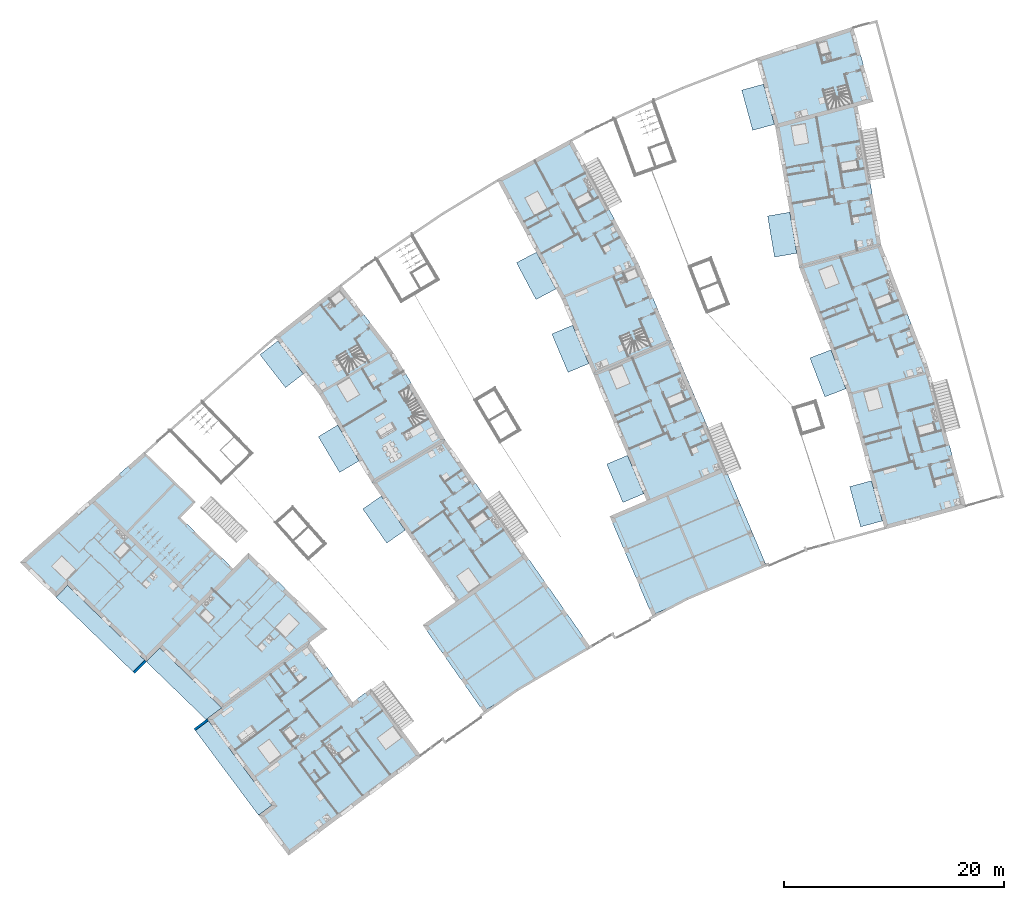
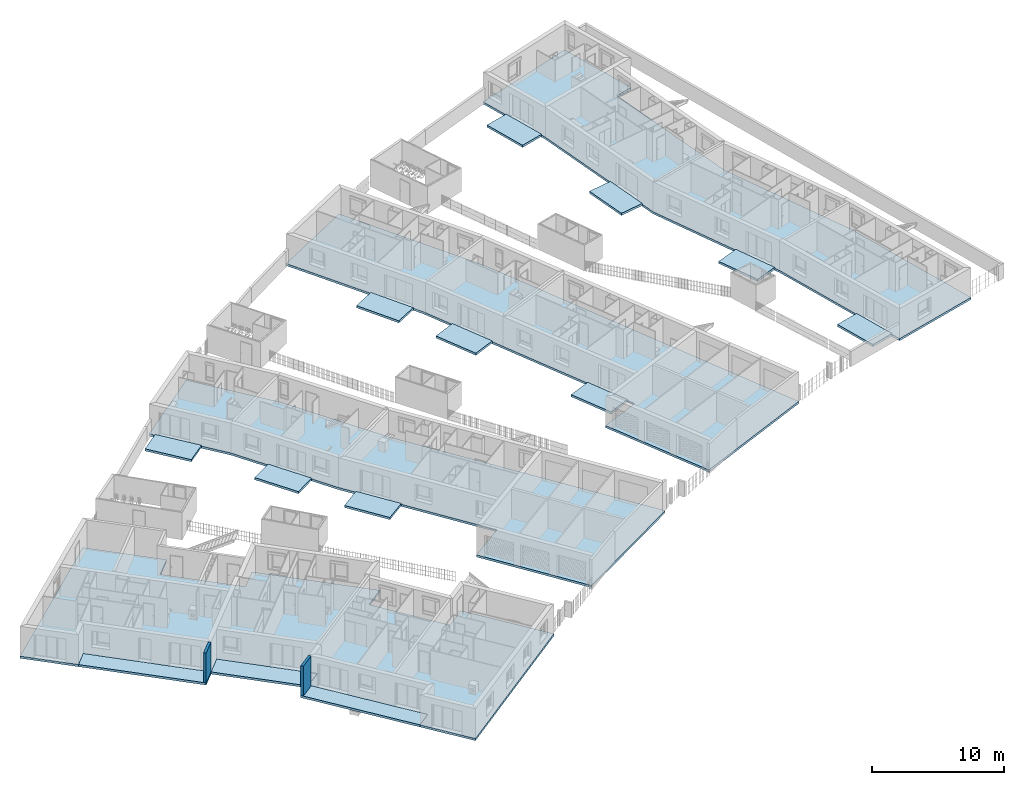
# One storey, part 1 of 195: 17 slabs, 2 walls.
"""IFC2X3 building model written with IfcOpenShell, lengths in metres."""

from ifc_helpers import new_model, entity, si_unit, converted_unit, derived_unit, money_unit, direction, frame, origin_with_axes, place, context, subcontext, project, spatial, polyline, outline, extrude, material, layer, layer_set, layer_usage, type_object, element, save


model = new_model("IFC2X3")

# Units and contexts
model_context = context("Model", 3, precision=1e-05, world=origin_with_axes(), true_north=direction((0.0, 1.0)))
body_context = subcontext(model_context, "Body", "Model", "MODEL_VIEW")
ifc_project = project(units=[si_unit("LENGTHUNIT", "METRE"), si_unit("AREAUNIT", "SQUARE_METRE"), si_unit("VOLUMEUNIT", "CUBIC_METRE"), converted_unit("PLANEANGLEUNIT", "DEGREE", entity("IfcPlaneAngleMeasure", 0.0174532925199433), si_unit("PLANEANGLEUNIT", "RADIAN"), dimensions=[0, 0, 0, 0, 0, 0, 0]), money_unit("CHF"), converted_unit("TIMEUNIT", "Year", entity("IfcTimeMeasure", 31557600.0), si_unit("TIMEUNIT", "SECOND"), dimensions=[0, 0, 1, 0, 0, 0, 0]), si_unit("MASSUNIT", "GRAM", prefix="KILO"), si_unit("THERMODYNAMICTEMPERATUREUNIT", "DEGREE_CELSIUS"), si_unit("LUMINOUSINTENSITYUNIT", "LUMEN"), si_unit("ENERGYUNIT", "JOULE", prefix="MEGA"), derived_unit("THERMALCONDUCTANCEUNIT", [(si_unit("POWERUNIT", "WATT"), 1), (si_unit("LENGTHUNIT", "METRE"), -1), (si_unit("THERMODYNAMICTEMPERATUREUNIT", "KELVIN"), -1)]), derived_unit("SPECIFICHEATCAPACITYUNIT", [(si_unit("ENERGYUNIT", "JOULE"), 1), (si_unit("MASSUNIT", "GRAM", prefix="KILO"), -1), (si_unit("THERMODYNAMICTEMPERATUREUNIT", "KELVIN"), -1)]), derived_unit("MASSDENSITYUNIT", [(si_unit("MASSUNIT", "GRAM", prefix="KILO"), 1), (si_unit("VOLUMEUNIT", "CUBIC_METRE"), -1)])], contexts=[model_context])

# Site, building, storey
site_placement = place(None, origin_with_axes())
site = spatial("IfcSite", under=ifc_project, at=site_placement, Name="Site", CompositionType="ELEMENT")
building_placement = place(site_placement, origin_with_axes())
building = spatial("IfcBuilding", under=site, at=building_placement, Name="Bâtiment", CompositionType="ELEMENT")
storey_placement = place(building_placement, origin_with_axes())
storey = spatial("IfcBuildingStorey", under=building, at=storey_placement, Name="rdc", CompositionType="ELEMENT", Elevation=0.0)

# Slabs
ifc_material_1 = material(Name="ANSI31 297159430")
ifc_layer_1 = layer(ifc_material_1, 0.2, ventilated="UNKNOWN")
ifc_layer_set_1 = layer_set([ifc_layer_1], Name="ANSI31 297159430 0.2")
ifc_layer_usage_1 = layer_usage(ifc_layer_set_1, "AXIS3", "NEGATIVE", 0.2)
slab_type_1 = type_object("IfcSlabType", Name="ANSI31 297159430 200", PredefinedType="FLOOR")
slab_1_placement = place(storey_placement, frame((9515.572352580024, -1064.510660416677, 57.7), z_axis=(0.0, 0.0, 1.0), x_axis=(1.0, 0.0, 0.0)))
element("IfcSlab", 1, at=slab_1_placement, inside=storey, type_object=slab_type_1, material=ifc_layer_usage_1, Name="Dalle-099", PredefinedType="FLOOR", context=body_context, shape_type="SweptSolid", body=[
    extrude(outline(polyline([(0.0, 0.0), (-1.040675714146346, -1.079673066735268), (6.107583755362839, -8.006431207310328), (7.151375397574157, -6.929166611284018), (0.0, 0.0)])), frame((0.0, 0.0, -0.2), z_axis=(0.0, 0.0, 1.0), x_axis=(1.0, 0.0, 0.0)), (0.0, 0.0, 1.0), 0.2),
])
ifc_layer_usage_2 = layer_usage(ifc_layer_set_1, "AXIS3", "NEGATIVE", 0.2)
slab_2_placement = place(storey_placement, frame((9578.738091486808, -1019.024687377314, 57.78), z_axis=(0.0, 0.0, 1.0), x_axis=(1.0, 0.0, 0.0)))
element("IfcSlab", 2, at=slab_2_placement, inside=storey, type_object=slab_type_1, material=ifc_layer_usage_2, Name="Dalle-099", PredefinedType="FLOOR", context=body_context, shape_type="SweptSolid", body=[
    extrude(outline(polyline([(0.0, 0.0), (-1.980780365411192, -0.5393674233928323), (-0.9865030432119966, -4.190765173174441), (0.9942773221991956, -3.651397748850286), (0.0, 0.0)])), frame((0.0, 0.0, -0.2), z_axis=(0.0, 0.0, 1.0), x_axis=(1.0, 0.0, 0.0)), (0.0, 0.0, 1.0), 0.2),
])
ifc_layer_usage_3 = layer_usage(ifc_layer_set_1, "AXIS3", "NEGATIVE", 0.2)
slab_3_placement = place(storey_placement, frame((9534.660434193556, -1042.323134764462, 57.78), z_axis=(0.0, 0.0, 1.0), x_axis=(1.0, 0.0, 0.0)))
element("IfcSlab", 3, at=slab_3_placement, inside=storey, type_object=slab_type_1, material=ifc_layer_usage_3, Name="Dalle-099", PredefinedType="FLOOR", context=body_context, shape_type="SweptSolid", body=[
    extrude(outline(polyline([(0.0, 0.0), (-1.622350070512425, -1.257930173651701), (0.6965357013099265, -4.248592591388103), (2.318885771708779, -2.990662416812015), (0.0, 0.0)])), frame((0.0, 0.0, -0.2), z_axis=(0.0, 0.0, 1.0), x_axis=(1.0, 0.0, 0.0)), (0.0, 0.0, 1.0), 0.2),
])
ifc_layer_usage_4 = layer_usage(ifc_layer_set_1, "AXIS3", "NEGATIVE", 0.2)
slab_4_placement = place(storey_placement, frame((9561.416105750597, -1040.898649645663, 57.78), z_axis=(0.0, 0.0, 1.0), x_axis=(1.0, 0.0, 0.0)))
element("IfcSlab", 4, at=slab_4_placement, inside=storey, type_object=slab_type_1, material=ifc_layer_usage_4, Name="Dalle-099", PredefinedType="FLOOR", context=body_context, shape_type="SweptSolid", body=[
    extrude(outline(polyline([(0.0, 0.0), (-1.891586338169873, -0.7976899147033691), (-0.421113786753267, -4.284666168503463), (1.470472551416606, -3.486976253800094), (0.0, 0.0)])), frame((0.0, 0.0, -0.2), z_axis=(0.0, 0.0, 1.0), x_axis=(1.0, 0.0, 0.0)), (0.0, 0.0, 1.0), 0.2),
])
ifc_layer_usage_5 = layer_usage(ifc_layer_set_1, "AXIS3", "NEGATIVE", 0.2)
slab_5_placement = place(storey_placement, frame((9558.131144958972, -1034.268580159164, 57.78), z_axis=(0.0, 0.0, 1.0), x_axis=(1.0, 0.0, 0.0)))
element("IfcSlab", 5, at=slab_5_placement, inside=storey, type_object=slab_type_1, material=ifc_layer_usage_5, Name="Dalle-099", PredefinedType="FLOOR", context=body_context, shape_type="SweptSolid", body=[
    extrude(outline(polyline([(0.0, 0.0), (-1.813944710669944, -0.9612557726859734), (-0.04195260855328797, -4.305106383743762), (1.771992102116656, -3.343850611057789), (0.0, 0.0)])), frame((0.0, 0.0, -0.2), z_axis=(0.0, 0.0, 1.0), x_axis=(1.0, 0.0, 0.0)), (0.0, 0.0, 1.0), 0.2),
])
ifc_layer_usage_6 = layer_usage(ifc_layer_set_1, "AXIS3", "NEGATIVE", 0.2)
slab_6_placement = place(storey_placement, frame((9523.941571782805, -1070.182928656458, 57.7), z_axis=(0.0, 0.0, 1.0), x_axis=(1.0, 0.0, 0.0)))
element("IfcSlab", 6, at=slab_6_placement, inside=storey, type_object=slab_type_1, material=ifc_layer_usage_6, Name="Dalle-099", PredefinedType="FLOOR", context=body_context, shape_type="SweptSolid", body=[
    extrude(outline(polyline([(0.0, 0.0), (-1.21784380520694, -1.256898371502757), (4.204445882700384, -6.510705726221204), (5.582322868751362, -5.481469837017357), (5.639182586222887, -5.4639609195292), (0.0, 0.0)])), frame((0.0, 0.0, -0.2), z_axis=(0.0, 0.0, 1.0), x_axis=(1.0, 0.0, 0.0)), (0.0, 0.0, 1.0), 0.2),
])
ifc_layer_usage_7 = layer_usage(ifc_layer_set_1, "AXIS3", "NEGATIVE", 0.2)
slab_7_placement = place(storey_placement, frame((9581.125737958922, -1030.644395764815, 57.78), z_axis=(0.0, 0.0, 1.0), x_axis=(1.0, 0.0, 0.0)))
element("IfcSlab", 7, at=slab_7_placement, inside=storey, type_object=slab_type_1, material=ifc_layer_usage_7, Name="Dalle-099", PredefinedType="FLOOR", context=body_context, shape_type="SweptSolid", body=[
    extrude(outline(polyline([(0.0, 0.0), (-2.023810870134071, -0.3443800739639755), (-1.388975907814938, -4.07510084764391), (0.6348349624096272, -3.730720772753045), (0.0, 0.0)])), frame((0.0, 0.0, -0.2), z_axis=(0.0, 0.0, 1.0), x_axis=(1.0, 0.0, 0.0)), (0.0, 0.0, 1.0), 0.2),
])
ifc_layer_usage_8 = layer_usage(ifc_layer_set_1, "AXIS3", "NEGATIVE", 0.2)
slab_8_placement = place(storey_placement, frame((9540.091569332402, -1049.967123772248, 57.78), z_axis=(0.0, 0.0, 1.0), x_axis=(1.0, 0.0, 0.0)))
element("IfcSlab", 8, at=slab_8_placement, inside=storey, type_object=slab_type_1, material=ifc_layer_usage_8, Name="Dalle-099", PredefinedType="FLOOR", context=body_context, shape_type="SweptSolid", body=[
    extrude(outline(polyline([(0.0, 0.0), (-1.763621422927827, -1.050736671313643), (0.1733209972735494, -4.301820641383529), (1.936942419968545, -3.251083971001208), (0.0, 0.0)])), frame((0.0, 0.0, -0.2), z_axis=(0.0, 0.0, 1.0), x_axis=(1.0, 0.0, 0.0)), (0.0, 0.0, 1.0), 0.2),
])
ifc_layer_usage_9 = layer_usage(ifc_layer_set_1, "AXIS3", "NEGATIVE", 0.2)
slab_9_placement = place(storey_placement, frame((9588.537589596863, -1055.01249940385, 57.78), z_axis=(0.0, 0.0, 1.0), x_axis=(1.0, 0.0, 0.0)))
element("IfcSlab", 9, at=slab_9_placement, inside=storey, type_object=slab_type_1, material=ifc_layer_usage_9, Name="Dalle-099", PredefinedType="FLOOR", context=body_context, shape_type="SweptSolid", body=[
    extrude(outline(polyline([(0.0, 0.0), (-1.980780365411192, -0.5393674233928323), (-0.9865030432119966, -4.190765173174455), (0.9942773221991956, -3.651397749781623), (0.0, 0.0)])), frame((0.0, 0.0, -0.2), z_axis=(0.0, 0.0, 1.0), x_axis=(1.0, 0.0, 0.0)), (0.0, 0.0, 1.0), 0.2),
])
ifc_layer_usage_10 = layer_usage(ifc_layer_set_1, "AXIS3", "NEGATIVE", 0.2)
slab_10_placement = place(storey_placement, frame((9566.39759464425, -1052.711405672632, 57.78), z_axis=(0.0, 0.0, 1.0), x_axis=(1.0, 0.0, 0.0)))
element("IfcSlab", 10, at=slab_10_placement, inside=storey, type_object=slab_type_1, material=ifc_layer_usage_10, Name="Dalle-099", PredefinedType="FLOOR", context=body_context, shape_type="SweptSolid", body=[
    extrude(outline(polyline([(0.0, 0.0), (-1.891586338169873, -0.7976899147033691), (-0.4211137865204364, -4.284666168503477), (1.470472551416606, -3.486976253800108), (0.0, 0.0)])), frame((0.0, 0.0, -0.2), z_axis=(0.0, 0.0, 1.0), x_axis=(1.0, 0.0, 0.0)), (0.0, 0.0, 1.0), 0.2),
])
ifc_layer_usage_11 = layer_usage(ifc_layer_set_1, "AXIS3", "NEGATIVE", 0.2)
slab_11_placement = place(storey_placement, frame((9544.05030068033, -1056.402841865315, 57.78), z_axis=(0.0, 0.0, 1.0), x_axis=(1.0, 0.0, 0.0)))
element("IfcSlab", 11, at=slab_11_placement, inside=storey, type_object=slab_type_1, material=ifc_layer_usage_11, Name="Dalle-099", PredefinedType="FLOOR", context=body_context, shape_type="SweptSolid", body=[
    extrude(outline(polyline([(0.0, 0.0), (-1.680799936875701, -1.178694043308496), (0.4920208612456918, -4.277103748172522), (2.172820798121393, -3.098409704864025), (0.0, 0.0)])), frame((0.0, 0.0, -0.2), z_axis=(0.0, 0.0, 1.0), x_axis=(1.0, 0.0, 0.0)), (0.0, 0.0, 1.0), 0.2),
])
ifc_layer_usage_12 = layer_usage(ifc_layer_set_1, "AXIS3", "NEGATIVE", 0.2)
slab_12_placement = place(storey_placement, frame((9584.860093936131, -1043.137228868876, 57.78), z_axis=(0.0, 0.0, 1.0), x_axis=(1.0, 0.0, 0.0)))
element("IfcSlab", 12, at=slab_12_placement, inside=storey, type_object=slab_type_1, material=ifc_layer_usage_12, Name="Dalle-099", PredefinedType="FLOOR", context=body_context, shape_type="SweptSolid", body=[
    extrude(outline(polyline([(0.0, 0.0), (-1.915930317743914, -0.7373052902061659), (-0.5567716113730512, -4.269157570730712), (1.359158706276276, -3.531852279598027), (0.0, 0.0)])), frame((0.0, 0.0, -0.2), z_axis=(0.0, 0.0, 1.0), x_axis=(1.0, 0.0, 0.0)), (0.0, 0.0, 1.0), 0.2),
])
ifc_layer_usage_13 = layer_usage(ifc_layer_set_1, "AXIS3", "NEGATIVE", 0.2)
slab_13_placement = place(storey_placement, frame((9528.242165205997, -1076.621814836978, 57.7), z_axis=(0.0, 0.0, 1.0), x_axis=(1.0, 0.0, 0.0)))
element("IfcSlab", 13, at=slab_13_placement, inside=storey, type_object=slab_type_1, material=ifc_layer_usage_13, Name="Dalle-099", PredefinedType="FLOOR", context=body_context, shape_type="SweptSolid", body=[
    extrude(outline(polyline([(0.0, 0.0), (-1.200043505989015, -0.8963992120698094), (4.665239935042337, -8.752023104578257), (5.866984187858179, -7.854353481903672), (0.0, 0.0)])), frame((0.0, 0.0, -0.2), z_axis=(0.0, 0.0, 1.0), x_axis=(1.0, 0.0, 0.0)), (0.0, 0.0, 1.0), 0.2),
])
ifc_material_2 = material(Name="AS_EMPTY 272048125")
ifc_layer_2 = layer(ifc_material_2, 0.2, ventilated="UNKNOWN")
ifc_layer_set_2 = layer_set([ifc_layer_2], Name="AS_EMPTY 272048125 0.2")
ifc_layer_usage_14 = layer_usage(ifc_layer_set_2, "AXIS3", "NEGATIVE", 0.2)
slab_type_2 = type_object("IfcSlabType", Name="AS_EMPTY 272048125 200", PredefinedType="FLOOR")
slab_14_placement = place(storey_placement, frame((9522.528090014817, -1052.392600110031, 57.7), z_axis=(0.0, 0.0, 1.0), x_axis=(1.0, 0.0, 0.0)))
element("IfcSlab", 14, at=slab_14_placement, inside=storey, type_object=slab_type_2, material=ifc_layer_usage_14, Name="Dalle-100", PredefinedType="FLOOR", context=body_context, shape_type="SweptSolid", body=[
    extrude(outline(polyline([(0.0, 0.0), (-11.26898707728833, -10.02745607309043), (-8.002198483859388, -13.19273844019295), (-6.955737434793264, -12.11806030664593), (0.1956379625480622, -19.04722691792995), (1.413481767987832, -17.79032854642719), (7.007425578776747, -23.28808157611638), (5.71407519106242, -24.22921472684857), (11.58105937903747, -32.08356820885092), (10.37931512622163, -32.9812378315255), (13.11195460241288, -36.63952558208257), (25.16395284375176, -27.63701719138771), (20.5739201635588, -21.49216695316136), (18.9232967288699, -22.72513687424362), (14.98054530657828, -17.33238229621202), (16.62244133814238, -16.10594593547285), (9.461777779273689, -9.167779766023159), (8.07005559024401, -10.60413256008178), (3.305677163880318, -5.987793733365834), (4.697399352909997, -4.551440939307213), (0.0, 0.0)])), frame((0.0, 0.0, -0.2), z_axis=(0.0, 0.0, 1.0), x_axis=(1.0, 0.0, 0.0)), (0.0, 0.0, 1.0), 0.2),
])
ifc_layer_usage_15 = layer_usage(ifc_layer_set_2, "AXIS3", "NEGATIVE", 0.2)
slab_15_placement = place(storey_placement, frame((9561.285709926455, -1024.008620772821, 57.7), z_axis=(0.0, 0.0, 1.0), x_axis=(1.0, 0.0, 0.0)))
element("IfcSlab", 15, at=slab_15_placement, inside=storey, type_object=slab_type_2, material=ifc_layer_usage_15, Name="Dalle-098", PredefinedType="FLOOR", context=body_context, shape_type="SweptSolid", body=[
    extrude(outline(polyline([(0.0, 0.0), (-6.738742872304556, -3.662965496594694), (-0.9598797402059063, -14.30462529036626), (6.83991987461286, -32.80052718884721), (3.492579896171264, -34.22999625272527), (7.325491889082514, -43.20539828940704), (17.73105679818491, -38.7622165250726), (6.107336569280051, -11.32435045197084), (0.0, 0.0)])), frame((0.0, 0.0, -0.2), z_axis=(0.0, 0.0, 1.0), x_axis=(1.0, 0.0, 0.0)), (0.0, 0.0, 1.0), 0.2),
])
ifc_layer_usage_16 = layer_usage(ifc_layer_set_2, "AXIS3", "NEGATIVE", 0.2)
slab_16_placement = place(storey_placement, frame((9586.85805817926, -1013.814604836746, 57.7), z_axis=(0.0, 0.0, 1.0), x_axis=(1.0, 0.0, 0.0)))
element("IfcSlab", 16, at=slab_16_placement, inside=storey, type_object=slab_type_2, material=ifc_layer_usage_16, Name="Dalle-097", PredefinedType="FLOOR", context=body_context, shape_type="SweptSolid", body=[
    extrude(outline(polyline([(0.0, 0.0), (-8.763311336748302, -2.847454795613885), (-7.025850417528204, -9.228130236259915), (-4.881525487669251, -21.82963777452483), (-0.4799497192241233, -33.26738624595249), (2.882330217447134, -45.61506946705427), (10.2827871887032, -43.59992155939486), (6.920507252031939, -31.25223833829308), (2.541589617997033, -19.80747237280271), (0.3746065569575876, -7.21298232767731), (1.854377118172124, -6.810040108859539), (0.0, 0.0)])), frame((0.0, 0.0, -0.2), z_axis=(0.0, 0.0, 1.0), x_axis=(1.0, 0.0, 0.0)), (0.0, 0.0, 1.0), 0.2),
])
ifc_layer_usage_17 = layer_usage(ifc_layer_set_2, "AXIS3", "NEGATIVE", 0.2)
slab_17_placement = place(storey_placement, frame((9540.339143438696, -1037.191138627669, 57.7), z_axis=(0.0, 0.0, 1.0), x_axis=(1.0, 0.0, 0.0)))
element("IfcSlab", 17, at=slab_17_placement, inside=storey, type_object=slab_type_2, material=ifc_layer_usage_17, Name="Dalle-099", PredefinedType="FLOOR", context=body_context, shape_type="SweptSolid", body=[
    extrude(outline(polyline([(0.0, 0.0), (-5.988193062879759, -4.732855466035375), (-1.892440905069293, -10.01513896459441), (2.883907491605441, -18.03205756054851), (10.45420396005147, -28.82718620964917), (7.470233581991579, -30.91975417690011), (12.96525621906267, -38.75557362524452), (22.74427629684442, -32.99414356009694), (9.491241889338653, -14.09551627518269), (4.720529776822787, -6.08805796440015), (0.0, 0.0)])), frame((0.0, 0.0, -0.2), z_axis=(0.0, 0.0, 1.0), x_axis=(1.0, 0.0, 0.0)), (0.0, 0.0, 1.0), 0.2),
])

# Walls
ifc_material_3 = material(Name="Parpaing 314940890")
ifc_layer_3 = layer(ifc_material_3, 0.22, ventilated="UNKNOWN")
ifc_layer_set_3 = layer_set([ifc_layer_3], Name="Beton  22 0836643197")
ifc_layer_usage_18 = layer_usage(ifc_layer_set_3, "AXIS2", "NEGATIVE", 0.0)
wall_type = type_object("IfcWallType", Name="Beton  22 0836643197 220", PredefinedType="NOTDEFINED")
wall_1_placement = place(storey_placement, frame((9522.723727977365, -1071.439827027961, 57.7), z_axis=(0.0, 0.0, 1.0), x_axis=(-0.6958610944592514, -0.7181763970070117, 0.0)))
element("IfcWallStandardCase", 18, at=wall_1_placement, inside=storey, type_object=wall_type, material=ifc_layer_usage_18, Name="Mur-113", context=body_context, shape_type="SweptSolid", body=[
    extrude(outline(polyline([(0.0, -0.2200000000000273), (1.50000000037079, -0.2200000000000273), (1.500000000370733, 0.0), (0.0, 0.0), (0.0, -0.2200000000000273)])), origin_with_axes(), (0.0, 0.0, 1.0), 2.75),
])
ifc_layer_usage_19 = layer_usage(ifc_layer_set_3, "AXIS2", "POSITIVE", 0.0)
wall_2_placement = place(storey_placement, frame((9528.24216520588, -1076.621814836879, 57.7), z_axis=(0.0, 0.0, 1.0), x_axis=(-0.8011628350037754, -0.5984464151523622, 0.0)))
element("IfcWallStandardCase", 19, at=wall_2_placement, inside=storey, type_object=wall_type, material=ifc_layer_usage_19, Name="Mur-113", context=body_context, shape_type="SweptSolid", body=[
    extrude(outline(polyline([(0.0, 0.0), (1.497877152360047, 0.0), (1.497877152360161, 0.2199999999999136), (0.0, 0.2199999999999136), (0.0, 0.0)])), origin_with_axes(), (0.0, 0.0, 1.0), 2.75),
])

save(model, "model.ifc")
